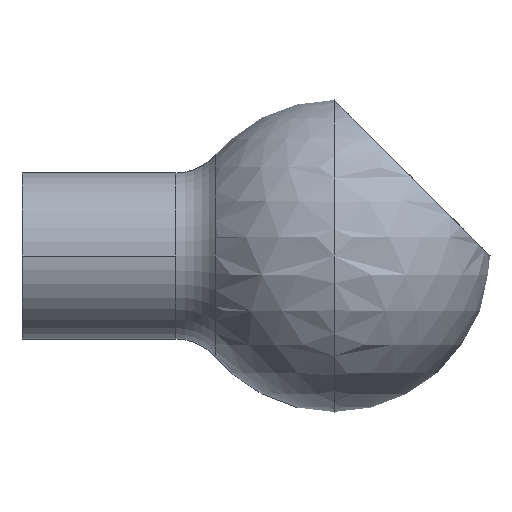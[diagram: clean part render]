
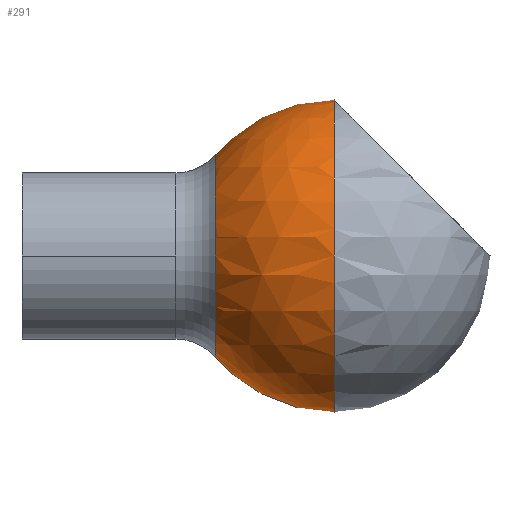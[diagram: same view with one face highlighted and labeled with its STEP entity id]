
A CAD part, left-side view. The second image highlights one B-rep face of the part: STEP entity #291.
In plain terms, the highlighted spherical face has radius 15 mm.
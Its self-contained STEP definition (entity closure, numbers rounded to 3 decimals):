
#209 = EDGE_CURVE( '', #379, #263, #490, .T. );
#215 = VERTEX_POINT( '', #496 );
#253 = VERTEX_POINT( '', #536 );
#263 = VERTEX_POINT( '', #548 );
#291 = ADVANCED_FACE( '', ( #579 ), #580, .T. );
#313 = EDGE_CURVE( '', #263, #253, #607, .T. );
#329 = VERTEX_POINT( '', #623 );
#333 = VERTEX_POINT( '', #627 );
#347 = EDGE_CURVE( '', #253, #333, #643, .T. );
#349 = VERTEX_POINT( '', #645 );
#357 = EDGE_CURVE( '', #329, #349, #653, .T. );
#361 = VERTEX_POINT( '', #657 );
#373 = EDGE_CURVE( '', #215, #379, #672, .T. );
#377 = EDGE_CURVE( '', #361, #329, #677, .T. );
#379 = VERTEX_POINT( '', #679 );
#383 = EDGE_CURVE( '', #333, #361, #683, .T. );
#393 = EDGE_CURVE( '', #349, #215, #694, .T. );
#490 = CIRCLE( '', #804, 15. );
#496 = CARTESIAN_POINT( '', ( 0., -30., 15. ) );
#536 = CARTESIAN_POINT( '', ( 9., -18.601, -3.75 ) );
#548 = CARTESIAN_POINT( '', ( 9., -30., -12. ) );
#579 = FACE_OUTER_BOUND( '', #914, .T. );
#580 = SPHERICAL_SURFACE( '', #915, 15. );
#607 = CIRCLE( '', #957, 12. );
#623 = CARTESIAN_POINT( '', ( 9., -18.601, 3.75 ) );
#627 = CARTESIAN_POINT( '', ( 0., -18.601, -9.75 ) );
#643 = CIRCLE( '', #1020, 9.75 );
#645 = CARTESIAN_POINT( '', ( 9., -30., 12. ) );
#653 = CIRCLE( '', #1035, 12. );
#657 = CARTESIAN_POINT( '', ( 0., -18.601, 9.75 ) );
#672 = CIRCLE( '', #1056, 15. );
#677 = CIRCLE( '', #1062, 9.75 );
#679 = CARTESIAN_POINT( '', ( 0., -30., -15. ) );
#683 = CIRCLE( '', #1070, 9.75 );
#694 = CIRCLE( '', #1082, 15. );
#804 = AXIS2_PLACEMENT_3D( '', #1210, #1211, #1212 );
#914 = EDGE_LOOP( '', ( #1315, #1316, #1317, #1318, #1319, #1320, #1321, #1322 ) );
#915 = AXIS2_PLACEMENT_3D( '', #1323, #1324, #1325 );
#957 = AXIS2_PLACEMENT_3D( '', #1370, #1371, #1372 );
#1020 = AXIS2_PLACEMENT_3D( '', #1400, #1401, #1402 );
#1035 = AXIS2_PLACEMENT_3D( '', #1405, #1406, #1407 );
#1056 = AXIS2_PLACEMENT_3D( '', #1440, #1441, #1442 );
#1062 = AXIS2_PLACEMENT_3D( '', #1452, #1453, #1454 );
#1070 = AXIS2_PLACEMENT_3D( '', #1458, #1459, #1460 );
#1082 = AXIS2_PLACEMENT_3D( '', #1469, #1470, #1471 );
#1210 = CARTESIAN_POINT( '', ( 0., -30., 0. ) );
#1211 = DIRECTION( '', ( 0., -1., 0. ) );
#1212 = DIRECTION( '', ( 0., 0., 1. ) );
#1315 = ORIENTED_EDGE( '', *, *, #373, .F. );
#1316 = ORIENTED_EDGE( '', *, *, #393, .F. );
#1317 = ORIENTED_EDGE( '', *, *, #357, .F. );
#1318 = ORIENTED_EDGE( '', *, *, #377, .F. );
#1319 = ORIENTED_EDGE( '', *, *, #383, .F. );
#1320 = ORIENTED_EDGE( '', *, *, #347, .F. );
#1321 = ORIENTED_EDGE( '', *, *, #313, .F. );
#1322 = ORIENTED_EDGE( '', *, *, #209, .F. );
#1323 = CARTESIAN_POINT( '', ( 0., -30., 0. ) );
#1324 = DIRECTION( '', ( 0., 0., 1. ) );
#1325 = DIRECTION( '', ( 1., 0., 0. ) );
#1370 = CARTESIAN_POINT( '', ( 9., -30., 0. ) );
#1371 = DIRECTION( '', ( 1., 0., 0. ) );
#1372 = DIRECTION( '', ( 0., 0., -1. ) );
#1400 = CARTESIAN_POINT( '', ( 0., -18.601, 0. ) );
#1401 = DIRECTION( '', ( 0., 1., 0. ) );
#1402 = DIRECTION( '', ( 0., 0., 1. ) );
#1405 = CARTESIAN_POINT( '', ( 9., -30., 0. ) );
#1406 = DIRECTION( '', ( 1., 0., 0. ) );
#1407 = DIRECTION( '', ( 0., 0., -1. ) );
#1440 = CARTESIAN_POINT( '', ( 0., -30., 0. ) );
#1441 = DIRECTION( '', ( 0., -1., 0. ) );
#1442 = DIRECTION( '', ( 0., 0., 1. ) );
#1452 = CARTESIAN_POINT( '', ( 0., -18.601, 0. ) );
#1453 = DIRECTION( '', ( 0., 1., 0. ) );
#1454 = DIRECTION( '', ( 0., 0., 1. ) );
#1458 = CARTESIAN_POINT( '', ( 0., -18.601, 0. ) );
#1459 = DIRECTION( '', ( 0., 1., 0. ) );
#1460 = DIRECTION( '', ( 0., 0., 1. ) );
#1469 = CARTESIAN_POINT( '', ( 0., -30., 0. ) );
#1470 = DIRECTION( '', ( 0., -1., 0. ) );
#1471 = DIRECTION( '', ( 0., 0., 1. ) );
